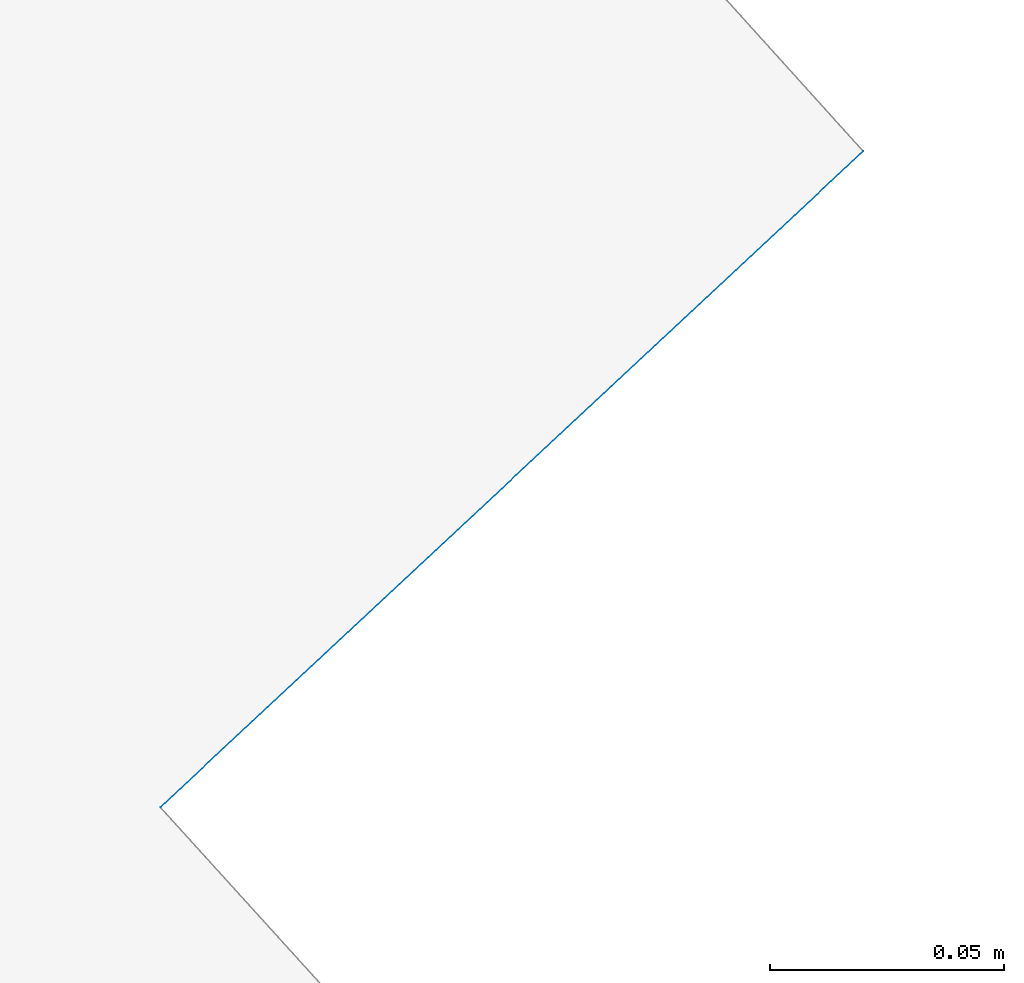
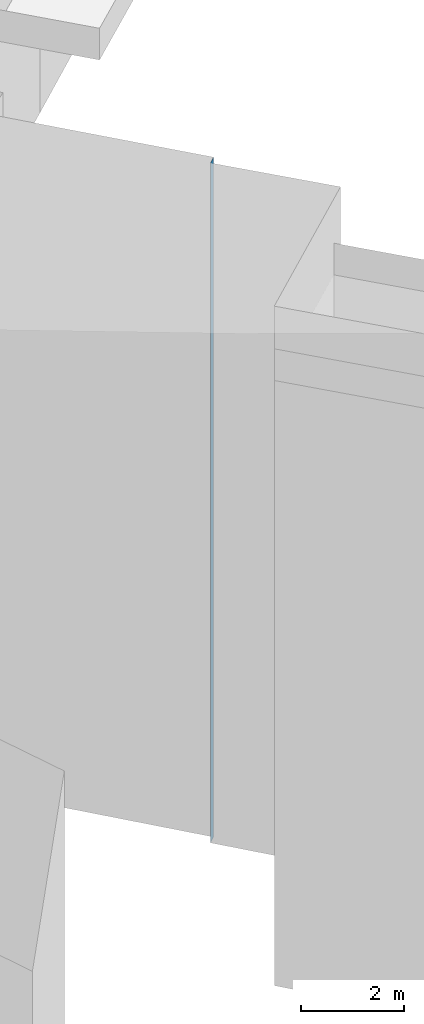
# Not in any storey, part 23 of 136: 1 wall.
"""IFC2X3 building model written with IfcOpenShell, lengths in metres."""

from ifc_helpers import new_model, entity, si_unit, converted_unit, origin, place, context, subcontext, project, spatial, face_set, surface_model, element, save


model = new_model("IFC2X3")

# Units and contexts
model_context = context("Model", 3, precision=1e-05, world=origin())
body_context = subcontext(model_context, "Body", "Model", "MODEL_VIEW")
ifc_project = project(units=[converted_unit("PLANEANGLEUNIT", "DEGREE", entity("IfcRatioMeasure", 0.0174532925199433), si_unit("PLANEANGLEUNIT", "RADIAN"), dimensions=[0, 0, 0, 0, 0, 0, 0]), si_unit("AREAUNIT", "SQUARE_METRE"), si_unit("LENGTHUNIT", "METRE")], contexts=[model_context])

# Site, building
site_placement = place(None, origin())
site = spatial("IfcSite", under=ifc_project, at=site_placement, Name="_site", CompositionType="ELEMENT")
building_placement = place(site_placement, origin())
building = spatial("IfcBuilding", under=site, at=building_placement, Name="_building", CompositionType="ELEMENT")

# Wall
wall_placement = place(building_placement, origin())
element("IfcWall", 1, at=wall_placement, inside=building, Name="Wall", context=body_context, shape_type="SurfaceModel", body=[
    surface_model("IfcFaceBasedSurfaceModel", [(75.63, 8.48, 54.47), (75.48, 8.34, 54.47), (75.48, 8.34, 38.379), (75.63, 8.48, 38.379)], [face_set([[[0, 1, 2, 3]]])]),
])

save(model, "model.ifc")
